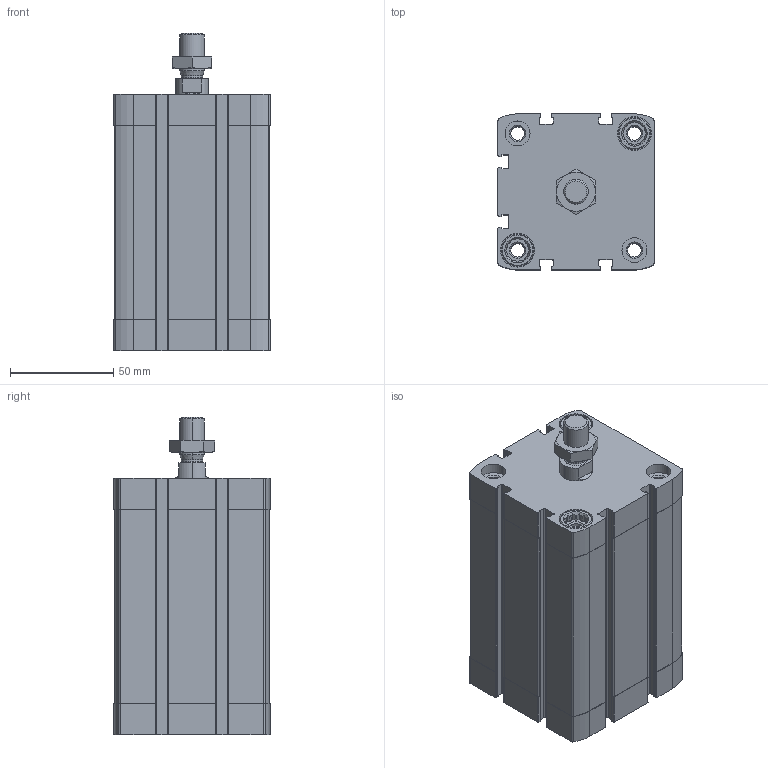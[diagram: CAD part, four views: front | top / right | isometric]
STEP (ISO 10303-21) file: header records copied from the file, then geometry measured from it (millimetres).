
FILE_DESCRIPTION (( 'STEP AP203' ), '1' );
FILE_NAME ('CCN63-75M.STEP', '2017-04-05T18:19:53', ( '' ), ( '' ), 'SwSTEP 2.0', 'SolidWorks 2016', '' );
FILE_SCHEMA (( 'CONFIG_CONTROL_DESIGN' ));
Length unit declared in the file: millimetre
Products named in the file (4): CCN63-75M; CCN---(Z); CCN_(KS); _DIN-439-B - M12x1.25(F)
Assembly tree (3 placements, depth 2):
  CCN63-75M
    CCN---(Z)
    CCN_(KS)
    _DIN-439-B - M12x1.25(F)
Bounding box: 75.5 x 75.5 x 153.5 mm (x, y, z)
Volume: 435148.5 mm3; surface area: 111713.5 mm2
Topology: 3 solids, 3 shells, 491 faces, 1318 edges, 864 vertices
Faces by surface type: plane 227, cylinder 212, cone 48, bspline 4
Entity records: 16092 total; most frequent: CARTESIAN_POINT 3139, DIRECTION 2676, ORIENTED_EDGE 2636, EDGE_CURVE 1318, AXIS2_PLACEMENT_3D 979, VERTEX_POINT 864, VECTOR 718, LINE 718
